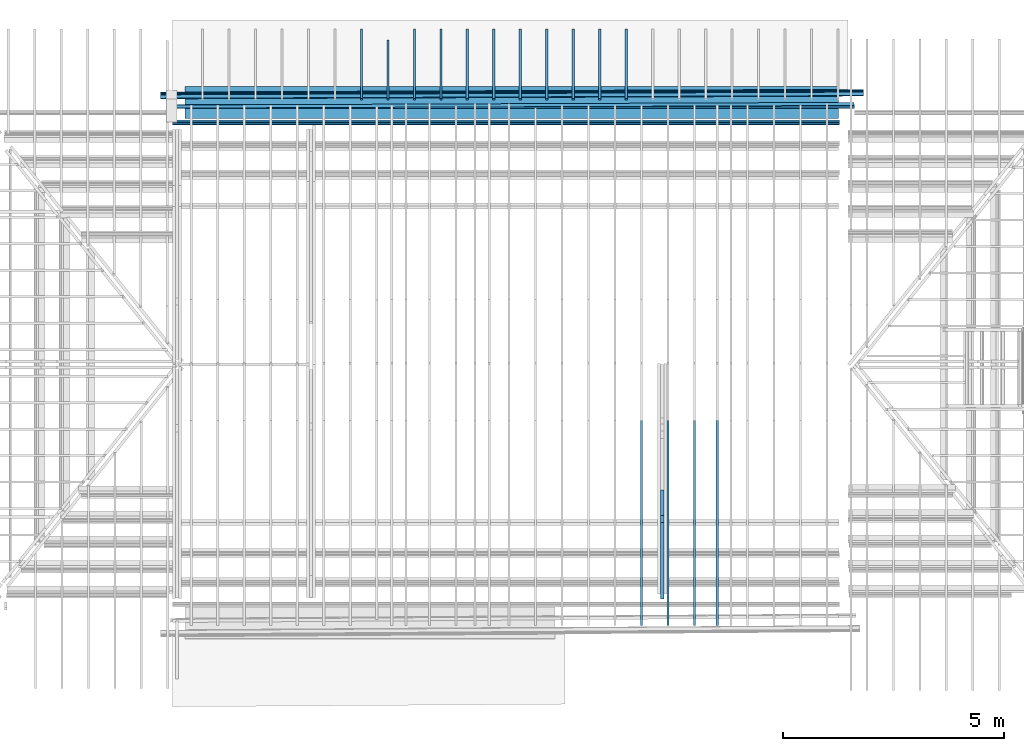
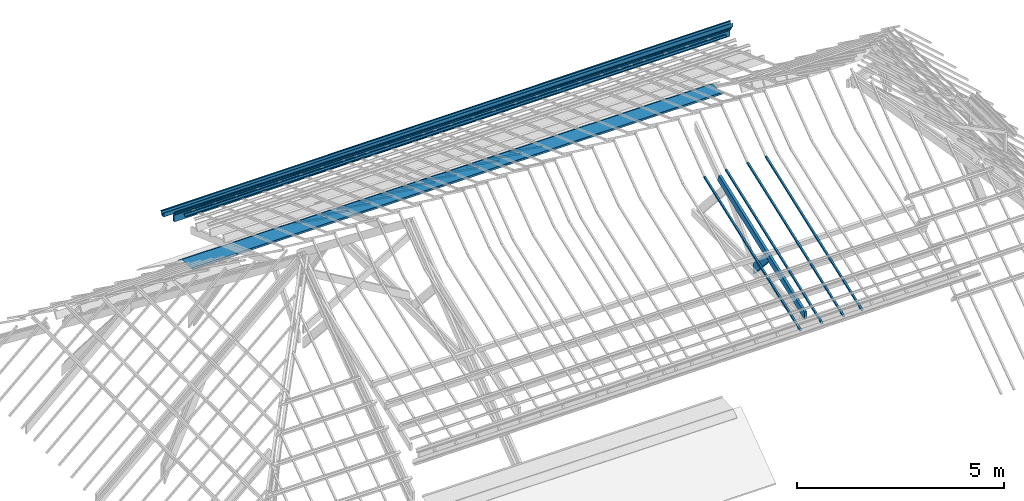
# One storey, part 9 of 18: 22 beams.
"""IFC2X3 building model written with IfcOpenShell, lengths in centimetres."""

from ifc_helpers import new_model, entity, si_unit, converted_unit, direction, frame, frame_2d, origin, origin_2d_with_axis, place, context, subcontext, project, spatial, polyline, circle_curve, parameter, trimmed, segment, composite_curve, rectangle, outline, extrude, clip, halfspace, bounded_halfspace, material, type_object, element, save


model = new_model("IFC2X3")

# Units and contexts
model_context = context("Model", 3, precision=0.001, world=frame((0.0, 0.0, 13090.0)), true_north=direction((6.123233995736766e-17, 1.0)))
body_context = subcontext(model_context, "Body", "Model", "MODEL_VIEW")
ifc_project = project(units=[si_unit("LENGTHUNIT", "METRE", prefix="CENTI"), si_unit("AREAUNIT", "SQUARE_METRE"), si_unit("VOLUMEUNIT", "CUBIC_METRE"), converted_unit("PLANEANGLEUNIT", "DEGREE", entity("IfcPlaneAngleMeasure", 0.017453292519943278), si_unit("PLANEANGLEUNIT", "RADIAN"), dimensions=[0, 0, 0, 0, 0, 0, 0])], contexts=[model_context])

# Site, building, storey
site_placement = place(None, origin())
site = spatial("IfcSite", under=ifc_project, at=site_placement, Name="Default", CompositionType="ELEMENT")
building_placement = place(site_placement, origin())
building = spatial("IfcBuilding", under=site, at=building_placement, Name="e 39 logements et 22 maisons relais", CompositionType="ELEMENT")
storey_placement = place(building_placement, frame((0.0, 0.0, 610.0)))
storey = spatial("IfcBuildingStorey", under=building, at=storey_placement, Name="R+2", CompositionType="ELEMENT", Elevation=609.9999999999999)

# Beams
ifc_material_1 = material(Name="Bois - Bois de construction de dimensions courantes")
beam_type_1 = type_object("IfcBeamType", Name="Poutre - Bois de construction de dimensions courantes:70 220", PredefinedType="BEAM")
beam_1_placement = place(storey_placement, frame((186.8682369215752, -561.3031404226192, 292.3300309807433), z_axis=(1.0, 0.0, 0.0), x_axis=(0.0, 0.665362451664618, -0.7465204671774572)))
element("IfcBeam", 1, at=beam_1_placement, inside=storey, type_object=beam_type_1, material=ifc_material_1, Name="Poutre - Bois de construction de dimensions courantes:70 220", ObjectType="Poutre - Bois de construction de dimensions courantes:70 220", context=body_context, shape_type="Clipping", body=[
    clip(clip(extrude(rectangle(XDim=21.99999999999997, YDim=7.000000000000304, at=frame_2d((1.354472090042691e-14, 0.0), x_axis=(0.0, 1.0))), frame((295.29875596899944, -11.0, 0.0), z_axis=(1.0, 0.0, 0.0), x_axis=(0.0, 0.0, -1.0)), (0.0, 0.0, 1.0), 109.54245639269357), bounded_halfspace(frame((394.72770309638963, -32.06071602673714, -409.30146352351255), z_axis=(0.746520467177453, -0.6653624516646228, 0.0), x_axis=(0.0, 0.0, 1.0)), False, frame((295.29875596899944, -11.0, 0.0), z_axis=(1.0, 0.0, 0.0), x_axis=(0.0, 0.0, -1.0)), polyline([(3.4999999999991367, -9.713604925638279), (-3.5000000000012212, -9.71360492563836), (-3.5000000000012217, -11.0), (3.4999999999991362, -11.0), (3.4999999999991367, -9.713604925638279)]))), bounded_halfspace(frame((404.8412123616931, -20.713604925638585, -409.30146352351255), z_axis=(0.6653624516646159, 0.7465204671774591, 0.0), x_axis=(0.0, 0.0, 1.0)), False, frame((295.29875596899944, -11.0, 0.0), z_axis=(1.0, 0.0, 0.0), x_axis=(0.0, 0.0, -1.0)), polyline([(-3.5000000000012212, -9.71360492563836), (3.4999999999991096, -9.713604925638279), (3.4999999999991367, 11.0), (-3.5000000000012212, 11.0), (-3.5000000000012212, -9.71360492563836)]))),
])
beam_type_2 = type_object("IfcBeamType", Name="Poutre - Bois de construction de dimensions courantes:70 200", PredefinedType="BEAM")
beam_2_placement = place(storey_placement, frame((186.86823692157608, -675.3686836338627, 55.291132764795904), z_axis=(0.0, -0.3472592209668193, 0.9377691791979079), x_axis=(0.0, 0.9377691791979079, 0.3472592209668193)))
element("IfcBeam", 2, at=beam_2_placement, inside=storey, type_object=beam_type_2, material=ifc_material_1, Name="Poutre - Bois de construction de dimensions courantes:70 200", ObjectType="Poutre - Bois de construction de dimensions courantes:70 200", context=body_context, shape_type="Clipping", body=[
    clip(extrude(rectangle(XDim=20.00000000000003, YDim=7.000000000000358, at=frame_2d((-7.016609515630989e-14, 0.0), x_axis=(1.0, 0.0))), frame((91.61969437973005, 0.0, -92.0), z_axis=(1.0, 0.0, 0.0), x_axis=(0.0, 0.0, -1.0)), (0.0, 0.0, 1.0), 448.16586327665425), halfspace(frame((112.11721562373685, 674.2152801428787, -46.64670047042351), z_axis=(-0.9377691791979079, 0.0, 0.3472592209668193), x_axis=(0.0, -1.0, 0.0)), False)),
])
beam_3_placement = place(storey_placement, frame((-580.7881755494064, 562.6902276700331, 18.41226177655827), z_axis=(0.0, 0.0, 1.0), x_axis=(-0.9999924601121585, -0.0038832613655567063, 0.0)))
element("IfcBeam", 3, at=beam_3_placement, inside=storey, type_object=beam_type_2, material=ifc_material_1, Name="Poutre - Bois de construction de dimensions courantes:70 200", ObjectType="Poutre - Bois de construction de dimensions courantes:70 200", context=body_context, shape_type="SweptSolid", body=[
    extrude(rectangle(XDim=20.0, YDim=7.000000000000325, at=frame_2d((0.0, -5.417888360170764e-14), x_axis=(1.0, 0.0))), frame((-1201.7620083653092, 0.0, -13.50000000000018), z_axis=(1.0, 0.0, 0.0), x_axis=(0.0, 0.0, -1.0)), (0.0, 0.0, 1.0), 1553.8612228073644),
])
ifc_material_2 = material(Name="neuf")
beam_type_3 = type_object("IfcBeamType", Name="gouttiere ALU G400:gouttiere ALU G400", PredefinedType="BEAM")
beam_4_placement = place(storey_placement, frame((-570.8951447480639, 580.4179206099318, 45.96233702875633), z_axis=(0.0, 0.0, 1.0), x_axis=(-0.9999924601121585, -0.0038832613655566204, 0.0)))
element("IfcBeam", 4, at=beam_4_placement, inside=storey, type_object=beam_type_3, material=ifc_material_2, Name="gouttiere ALU G400:gouttiere ALU G400", ObjectType="gouttiere ALU G400:gouttiere ALU G400", context=body_context, shape_type="SweptSolid", body=[
    extrude(outline(composite_curve([segment(polyline([(-4.596964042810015, -5.183638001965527), (-4.410064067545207, -5.183638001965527)]), True, "CONTINUOUS"), segment(trimmed(circle_curve(frame_2d((-4.410064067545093, -4.392159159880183), x_axis=(0.0, -1.0)), 0.7914788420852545), [parameter(0.0)], [parameter(89.99999999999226)], True, "PARAMETER"), True, "CONTINUOUS"), segment(polyline([(-3.6185852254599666, -4.3921591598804), (-3.6185852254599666, -3.63303606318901)]), True, "CONTINUOUS"), segment(trimmed(circle_curve(frame_2d((-2.8287143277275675, -3.6330360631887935), x_axis=(-1.0, 0.0)), 0.7898708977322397), [parameter(284.6197487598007)], [parameter(0.0)], True, "PARAMETER"), False, "CONTINUOUS"), segment(polyline([(-3.0280800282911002, -2.868739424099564), (3.0018920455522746, -1.9250957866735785)]), True, "CONTINUOUS"), segment(trimmed(circle_curve(frame_2d((2.6511667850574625, -0.5488704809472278), x_axis=(0.24695261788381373, -0.9690275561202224)), 1.4202127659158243), [parameter(0.0)], [parameter(75.70274320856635)], True, "PARAMETER"), True, "CONTINUOUS"), segment(trimmed(circle_curve(frame_2d((4.738394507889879, -0.5488704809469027), x_axis=(-1.0, 0.0)), 0.6670149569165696), [parameter(269.9999999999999)], [parameter(0.0)], True, "PARAMETER"), False, "CONTINUOUS"), segment(polyline([(4.738394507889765, 0.11814447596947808), (5.823944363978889, 0.11814447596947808)]), True, "CONTINUOUS"), segment(trimmed(circle_curve(frame_2d((5.604531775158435, 1.4672111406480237), x_axis=(0.16053097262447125, -0.9870308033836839)), 1.3667928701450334), [parameter(0.0)], [parameter(80.76228289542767)], True, "PARAMETER"), True, "CONTINUOUS"), segment(polyline([(6.971324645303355, 1.4672111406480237), (6.9713246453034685, 7.967211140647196)]), True, "CONTINUOUS"), segment(trimmed(circle_curve(frame_2d((4.482502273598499, 7.967211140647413), x_axis=(1.0, 0.0)), 2.48882237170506), [parameter(0.0)], [parameter(79.98963375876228)], True, "PARAMETER"), True, "CONTINUOUS"), segment(polyline([(4.915125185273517, 10.418144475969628), (-6.028675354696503, 10.41814447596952)]), True, "CONTINUOUS"), segment(polyline([(-6.028675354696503, 10.41814447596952), (-6.028675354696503, 10.218144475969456)]), True, "CONTINUOUS"), segment(polyline([(-6.028675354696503, 10.218144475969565), (4.897239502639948, 10.218144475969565)]), True, "CONTINUOUS"), segment(trimmed(circle_curve(frame_2d((4.482502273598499, 7.967211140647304), x_axis=(0.18120114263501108, 0.983446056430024)), 2.288822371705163), [parameter(280.43973077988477)], [parameter(0.0)], True, "PARAMETER"), False, "CONTINUOUS"), segment(polyline([(6.771324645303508, 7.967211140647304), (6.771324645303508, 1.4672111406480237)]), True, "CONTINUOUS"), segment(trimmed(circle_curve(frame_2d((5.604531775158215, 1.467211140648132), x_axis=(1.0, 0.0)), 1.1667928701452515), [parameter(279.99999999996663)], [parameter(0.0)], True, "PARAMETER"), False, "CONTINUOUS"), segment(polyline([(5.807143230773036, 0.3181444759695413), (4.738394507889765, 0.3181444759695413)]), True, "CONTINUOUS"), segment(trimmed(circle_curve(frame_2d((4.738394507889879, -0.5488704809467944), x_axis=(0.0, 1.0)), 0.8670149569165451), [parameter(0.0)], [parameter(90.00000000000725)], True, "PARAMETER"), True, "CONTINUOUS"), segment(trimmed(circle_curve(frame_2d((2.6511667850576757, -0.5488704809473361), x_axis=(1.0, 0.0)), 1.2202127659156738), [parameter(284.7237510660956)], [parameter(0.0)], True, "PARAMETER"), False, "CONTINUOUS"), segment(polyline([(2.961294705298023, -1.7290144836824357), (-3.068480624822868, -2.672439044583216)]), True, "CONTINUOUS"), segment(trimmed(circle_curve(frame_2d((-2.8289568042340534, -3.6331166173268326), x_axis=(-0.2419218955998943, 0.9702957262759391)), 0.9900873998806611), [parameter(0.0)], [parameter(75.99999999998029)], True, "PARAMETER"), True, "CONTINUOUS"), segment(polyline([(-3.8190442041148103, -3.6331166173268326), (-3.8190442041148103, -4.391273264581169)]), True, "CONTINUOUS"), segment(trimmed(circle_curve(frame_2d((-4.409626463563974, -4.391273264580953), x_axis=(1.0, 0.0)), 0.5905822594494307), [parameter(270.0000000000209)], [parameter(0.0)], True, "PARAMETER"), False, "CONTINUOUS"), segment(polyline([(-4.409626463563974, -4.981855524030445), (-4.596293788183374, -4.981855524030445)]), True, "CONTINUOUS"), segment(trimmed(circle_curve(frame_2d((-4.596293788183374, -4.451936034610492), x_axis=(0.0, -1.0)), 0.5299194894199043), [parameter(269.9999999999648)], [parameter(0.0)], True, "PARAMETER"), False, "CONTINUOUS"), segment(polyline([(-5.1262132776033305, -4.451936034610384), (-5.308633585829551, -2.7163227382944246)]), True, "CONTINUOUS"), segment(polyline([(-5.308633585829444, -2.7163227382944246), (-5.5097352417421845, -2.7163227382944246)]), True, "CONTINUOUS"), segment(polyline([(-5.5097352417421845, -2.7163227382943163), (-5.324785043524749, -4.455817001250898)]), True, "CONTINUOUS"), segment(trimmed(circle_curve(frame_2d((-4.596964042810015, -4.455817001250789), x_axis=(-1.0, 0.0)), 0.727821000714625), [parameter(0.0)], [parameter(90.00000000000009)], True, "PARAMETER"), True, "CONTINUOUS")], self_intersect=False)), frame((-1213.6300168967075, -10.218144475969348, -37.028675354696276), z_axis=(1.0, 0.0, 0.0), x_axis=(0.0, 0.0, -1.0)), (0.0, 0.0, 1.0), 1592.5999382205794),
])
beam_type_4 = type_object("IfcBeamType", Name="panne z:panne z", PredefinedType="BEAM")
beam_5_placement = place(storey_placement, frame((-570.930260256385, 527.6837356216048, 38.45000000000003), z_axis=(-0.0004969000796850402, 0.0, 0.9999998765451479), x_axis=(-0.9999998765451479, 0.0, -0.0004969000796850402)))
element("IfcBeam", 5, at=beam_5_placement, inside=storey, type_object=beam_type_4, material=ifc_material_2, Name="panne z:panne z", ObjectType="panne z:panne z", context=body_context, shape_type="SweptSolid", body=[
    extrude(outline(composite_curve([segment(polyline([(0.30000000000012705, -3.0), (4.6000000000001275, -3.0)]), True, "CONTINUOUS"), segment(trimmed(circle_curve(frame_2d((4.60000000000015, -2.599999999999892), x_axis=(0.0, -1.0)), 0.40000000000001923), [parameter(0.0)], [parameter(90.00000000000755)], True, "PARAMETER"), True, "CONTINUOUS"), segment(polyline([(5.0, -2.5999999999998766), (5.0, -1.0)]), True, "CONTINUOUS"), segment(polyline([(5.0, -1.0), (4.800000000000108, -1.0)]), True, "CONTINUOUS"), segment(polyline([(4.800000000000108, -1.0), (4.8000000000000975, -2.5999999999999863)]), True, "CONTINUOUS"), segment(trimmed(circle_curve(frame_2d((4.600000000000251, -2.599999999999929), x_axis=(1.0, 0.0)), 0.1999999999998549), [parameter(269.9999999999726)], [parameter(0.0)], True, "PARAMETER"), False, "CONTINUOUS"), segment(polyline([(4.600000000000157, -2.7999999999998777), (0.3000000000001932, -2.799999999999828)]), True, "CONTINUOUS"), segment(trimmed(circle_curve(frame_2d((0.30000000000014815, -2.5999999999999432), x_axis=(0.0, -1.0)), 0.19999999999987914), [parameter(269.9999999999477)], [parameter(0.0)], True, "PARAMETER"), False, "CONTINUOUS"), segment(polyline([(0.10000000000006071, -2.599999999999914), (0.10000000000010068, 2.600000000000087)]), True, "CONTINUOUS"), segment(trimmed(circle_curve(frame_2d((-0.2999999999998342, 2.6000000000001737), x_axis=(1.0, 0.0)), 0.3999999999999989), [parameter(0.0)], [parameter(89.99999999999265)], True, "PARAMETER"), True, "CONTINUOUS"), segment(polyline([(-0.2999999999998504, 3.0), (-4.59999999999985, 3.0)]), True, "CONTINUOUS"), segment(trimmed(circle_curve(frame_2d((-4.599999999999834, 2.600000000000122), x_axis=(0.0, 1.0)), 0.40000000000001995), [parameter(0.0)], [parameter(90.00000000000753)], True, "PARAMETER"), True, "CONTINUOUS"), segment(polyline([(-5.0, 2.600000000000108), (-5.0, 1.0)]), True, "CONTINUOUS"), segment(polyline([(-5.0, 1.0), (-4.79999999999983, 1.0)]), True, "CONTINUOUS"), segment(polyline([(-4.79999999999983, 1.0), (-4.799999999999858, 2.6000000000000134)]), True, "CONTINUOUS"), segment(trimmed(circle_curve(frame_2d((-4.600000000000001, 2.6000000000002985), x_axis=(-1.0, 0.0)), 0.19999999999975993), [parameter(269.9999999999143)], [parameter(0.0)], True, "PARAMETER"), False, "CONTINUOUS"), segment(polyline([(-4.599999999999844, 2.8000000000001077), (-0.2999999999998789, 2.8000000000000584)]), True, "CONTINUOUS"), segment(trimmed(circle_curve(frame_2d((-0.2999999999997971, 2.6000000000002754), x_axis=(0.0, 1.0)), 0.19999999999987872), [parameter(269.9999999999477)], [parameter(0.0)], True, "PARAMETER"), False, "CONTINUOUS"), segment(polyline([(-0.09999999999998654, 2.6000000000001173), (-0.09999999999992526, -2.599999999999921)]), True, "CONTINUOUS"), segment(trimmed(circle_curve(frame_2d((0.300000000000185, -2.5999999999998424), x_axis=(-1.0, 0.0)), 0.399999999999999), [parameter(0.0)], [parameter(89.99999999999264)], True, "PARAMETER"), True, "CONTINUOUS")], self_intersect=False)), frame((-1159.781285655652, 2.5591430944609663, -7.0311878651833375), z_axis=(1.0, 0.0, 0.0), x_axis=(0.0, -0.9396926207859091, -0.3420201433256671)), (0.0, 0.0, 1.0), 1511.88052744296),
])
beam_type_5 = type_object("IfcBeamType", Name="Poutre - Bois de construction de dimensions courantes:50 50", PredefinedType="BEAM")
beam_6_placement = place(storey_placement, frame((139.82376656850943, -682.454003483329, 59.79760523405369), z_axis=(0.0, -0.34610942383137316, 0.9381941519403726), x_axis=(0.0, 0.9381941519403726, 0.34610942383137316)))
element("IfcBeam", 6, at=beam_6_placement, inside=storey, type_object=beam_type_5, material=ifc_material_1, Name="Poutre - Bois de construction de dimensions courantes:50 50", ObjectType="Poutre - Bois de construction de dimensions courantes:50 50", context=body_context, shape_type="SweptSolid", body=[
    extrude(rectangle(XDim=4.999999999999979, YDim=5.000000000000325, at=frame_2d((1.887379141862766e-14, 0.0), x_axis=(1.0, 0.0))), frame((47.46098828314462, 0.0, -71.50000000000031), z_axis=(1.0, 0.0, 0.0), x_axis=(0.0, 0.0, -1.0)), (0.0, 0.0, 1.0), 496.5080480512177),
])
beam_7_placement = place(storey_placement, frame((311.35051896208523, -682.4540034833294, 59.79760523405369), z_axis=(0.0, -0.34610942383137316, 0.9381941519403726), x_axis=(0.0, 0.9381941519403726, 0.34610942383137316)))
element("IfcBeam", 7, at=beam_7_placement, inside=storey, type_object=beam_type_5, material=ifc_material_1, Name="Poutre - Bois de construction de dimensions courantes:50 50", ObjectType="Poutre - Bois de construction de dimensions courantes:50 50", context=body_context, shape_type="SweptSolid", body=[
    extrude(rectangle(XDim=4.999999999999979, YDim=5.000000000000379, at=origin_2d_with_axis()), frame((47.46098828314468, 0.0, -71.50000000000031), z_axis=(1.0, 0.0, 0.0), x_axis=(0.0, 0.0, -1.0)), (0.0, 0.0, 1.0), 496.5080480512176),
])
beam_8_placement = place(storey_placement, frame((259.85901227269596, -682.4540034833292, 59.79760523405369), z_axis=(0.0, -0.34610942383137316, 0.9381941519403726), x_axis=(0.0, 0.9381941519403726, 0.34610942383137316)))
element("IfcBeam", 8, at=beam_8_placement, inside=storey, type_object=beam_type_5, material=ifc_material_1, Name="Poutre - Bois de construction de dimensions courantes:50 50", ObjectType="Poutre - Bois de construction de dimensions courantes:50 50", context=body_context, shape_type="SweptSolid", body=[
    extrude(rectangle(XDim=4.999999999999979, YDim=5.000000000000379, at=frame_2d((0.0, -5.417888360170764e-14), x_axis=(1.0, 0.0))), frame((47.460988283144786, 0.0, -71.50000000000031), z_axis=(1.0, 0.0, 0.0), x_axis=(0.0, 0.0, -1.0)), (0.0, 0.0, 1.0), 496.5080480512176),
])
beam_9_placement = place(storey_placement, frame((199.82376656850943, -682.4540034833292, 59.79760523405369), z_axis=(0.0, -0.34610942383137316, 0.9381941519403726), x_axis=(0.0, 0.9381941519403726, 0.34610942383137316)))
element("IfcBeam", 9, at=beam_9_placement, inside=storey, type_object=beam_type_5, material=ifc_material_1, Name="Poutre - Bois de construction de dimensions courantes:50 50", ObjectType="Poutre - Bois de construction de dimensions courantes:50 50", context=body_context, shape_type="SweptSolid", body=[
    extrude(rectangle(XDim=4.999999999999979, YDim=5.000000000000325, at=frame_2d((1.887379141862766e-14, 0.0), x_axis=(1.0, 0.0))), frame((47.46098828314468, 0.0, -71.50000000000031), z_axis=(1.0, 0.0, 0.0), x_axis=(0.0, 0.0, -1.0)), (0.0, 0.0, 1.0), 496.5080480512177),
])
beam_10_placement = place(storey_placement, frame((-434.7819705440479, 595.7154312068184, -82.26436383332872), z_axis=(0.0, 0.5804591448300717, 0.814289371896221), x_axis=(0.0, -0.814289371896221, 0.5804591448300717)))
element("IfcBeam", 10, at=beam_10_placement, inside=storey, type_object=beam_type_5, material=ifc_material_1, Name="Poutre - Bois de construction de dimensions courantes:50 50", ObjectType="Poutre - Bois de construction de dimensions courantes:50 50", context=body_context, shape_type="SweptSolid", body=[
    extrude(rectangle(XDim=4.999999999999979, YDim=5.000000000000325, at=frame_2d((-2.19824158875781e-14, 0.0), x_axis=(1.0, 0.0))), frame((-191.95939717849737, 0.0, -71.50000000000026), z_axis=(1.0, 0.0, 0.0), x_axis=(0.0, 0.0, -1.0)), (0.0, 0.0, 1.0), 163.14570553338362),
])
beam_11_placement = place(storey_placement, frame((-374.7819705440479, 595.7154312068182, -82.26436383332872), z_axis=(0.0, 0.5804591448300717, 0.814289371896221), x_axis=(0.0, -0.814289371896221, 0.5804591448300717)))
element("IfcBeam", 11, at=beam_11_placement, inside=storey, type_object=beam_type_5, material=ifc_material_1, Name="Poutre - Bois de construction de dimensions courantes:50 50", ObjectType="Poutre - Bois de construction de dimensions courantes:50 50", context=body_context, shape_type="SweptSolid", body=[
    extrude(rectangle(XDim=5.000000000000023, YDim=5.000000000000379, at=frame_2d((0.0, 2.708944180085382e-14), x_axis=(1.0, 0.0))), frame((-222.1836430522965, 0.0, -71.50000000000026), z_axis=(1.0, 0.0, 0.0), x_axis=(0.0, 0.0, -1.0)), (0.0, 0.0, 1.0), 193.3699514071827),
])
beam_12_placement = place(storey_placement, frame((-314.7819705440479, 595.7154312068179, -82.26436383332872), z_axis=(0.0, 0.5804591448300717, 0.814289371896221), x_axis=(0.0, -0.814289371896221, 0.5804591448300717)))
element("IfcBeam", 12, at=beam_12_placement, inside=storey, type_object=beam_type_5, material=ifc_material_1, Name="Poutre - Bois de construction de dimensions courantes:50 50", ObjectType="Poutre - Bois de construction de dimensions courantes:50 50", context=body_context, shape_type="SweptSolid", body=[
    extrude(rectangle(XDim=5.000000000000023, YDim=5.000000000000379, at=frame_2d((0.0, 2.708944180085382e-14), x_axis=(1.0, 0.0))), frame((-222.18364305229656, 0.0, -71.50000000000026), z_axis=(1.0, 0.0, 0.0), x_axis=(0.0, 0.0, -1.0)), (0.0, 0.0, 1.0), 193.3699514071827),
])
beam_13_placement = place(storey_placement, frame((-254.7819705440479, 595.7154312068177, -82.26436383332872), z_axis=(0.0, 0.5804591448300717, 0.814289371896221), x_axis=(0.0, -0.814289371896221, 0.5804591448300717)))
element("IfcBeam", 13, at=beam_13_placement, inside=storey, type_object=beam_type_5, material=ifc_material_1, Name="Poutre - Bois de construction de dimensions courantes:50 50", ObjectType="Poutre - Bois de construction de dimensions courantes:50 50", context=body_context, shape_type="SweptSolid", body=[
    extrude(rectangle(XDim=5.000000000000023, YDim=5.000000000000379, at=frame_2d((0.0, 2.708944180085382e-14), x_axis=(1.0, 0.0))), frame((-222.18364305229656, 0.0, -71.5000000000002), z_axis=(1.0, 0.0, 0.0), x_axis=(0.0, 0.0, -1.0)), (0.0, 0.0, 1.0), 193.3699514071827),
])
beam_14_placement = place(storey_placement, frame((-194.7819705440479, 595.7154312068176, -82.26436383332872), z_axis=(0.0, 0.5804591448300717, 0.814289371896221), x_axis=(0.0, -0.814289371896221, 0.5804591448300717)))
element("IfcBeam", 14, at=beam_14_placement, inside=storey, type_object=beam_type_5, material=ifc_material_1, Name="Poutre - Bois de construction de dimensions courantes:50 50", ObjectType="Poutre - Bois de construction de dimensions courantes:50 50", context=body_context, shape_type="SweptSolid", body=[
    extrude(rectangle(XDim=5.000000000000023, YDim=5.000000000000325, at=frame_2d((0.0, -1.354472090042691e-14), x_axis=(1.0, 0.0))), frame((-222.18364305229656, 0.0, -71.50000000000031), z_axis=(1.0, 0.0, 0.0), x_axis=(0.0, 0.0, -1.0)), (0.0, 0.0, 1.0), 193.3699514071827),
])
beam_15_placement = place(storey_placement, frame((-134.78197054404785, 595.7154312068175, -82.26436383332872), z_axis=(0.0, 0.5804591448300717, 0.814289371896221), x_axis=(0.0, -0.814289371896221, 0.5804591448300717)))
element("IfcBeam", 15, at=beam_15_placement, inside=storey, type_object=beam_type_5, material=ifc_material_1, Name="Poutre - Bois de construction de dimensions courantes:50 50", ObjectType="Poutre - Bois de construction de dimensions courantes:50 50", context=body_context, shape_type="SweptSolid", body=[
    extrude(rectangle(XDim=4.999999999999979, YDim=5.000000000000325, at=frame_2d((-2.19824158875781e-14, -1.354472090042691e-14), x_axis=(1.0, 0.0))), frame((-222.18364305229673, 0.0, -71.50000000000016), z_axis=(1.0, 0.0, 0.0), x_axis=(0.0, 0.0, -1.0)), (0.0, 0.0, 1.0), 193.3699514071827),
])
beam_16_placement = place(storey_placement, frame((-74.78197054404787, 595.7154312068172, -82.26436383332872), z_axis=(0.0, 0.5804591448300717, 0.814289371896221), x_axis=(0.0, -0.814289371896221, 0.5804591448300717)))
element("IfcBeam", 16, at=beam_16_placement, inside=storey, type_object=beam_type_5, material=ifc_material_1, Name="Poutre - Bois de construction de dimensions courantes:50 50", ObjectType="Poutre - Bois de construction de dimensions courantes:50 50", context=body_context, shape_type="SweptSolid", body=[
    extrude(rectangle(XDim=4.999999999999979, YDim=5.000000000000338, at=frame_2d((-2.19824158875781e-14, 6.661338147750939e-15), x_axis=(1.0, 0.0))), frame((-222.18364305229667, 0.0, -71.50000000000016), z_axis=(1.0, 0.0, 0.0), x_axis=(0.0, 0.0, -1.0)), (0.0, 0.0, 1.0), 193.3699514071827),
])
beam_17_placement = place(storey_placement, frame((-14.781970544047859, 595.715431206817, -82.26436383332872), z_axis=(0.0, 0.5804591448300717, 0.814289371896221), x_axis=(0.0, -0.814289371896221, 0.5804591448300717)))
element("IfcBeam", 17, at=beam_17_placement, inside=storey, type_object=beam_type_5, material=ifc_material_1, Name="Poutre - Bois de construction de dimensions courantes:50 50", ObjectType="Poutre - Bois de construction de dimensions courantes:50 50", context=body_context, shape_type="SweptSolid", body=[
    extrude(rectangle(XDim=4.999999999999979, YDim=5.000000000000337, at=frame_2d((-2.19824158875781e-14, 8.881784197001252e-16), x_axis=(1.0, 0.0))), frame((-222.18364305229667, 0.0, -71.5000000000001), z_axis=(1.0, 0.0, 0.0), x_axis=(0.0, 0.0, -1.0)), (0.0, 0.0, 1.0), 193.3699514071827),
])
beam_18_placement = place(storey_placement, frame((45.21802945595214, 595.7154312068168, -82.26436383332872), z_axis=(0.0, 0.5804591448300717, 0.814289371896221), x_axis=(0.0, -0.814289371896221, 0.5804591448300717)))
element("IfcBeam", 18, at=beam_18_placement, inside=storey, type_object=beam_type_5, material=ifc_material_1, Name="Poutre - Bois de construction de dimensions courantes:50 50", ObjectType="Poutre - Bois de construction de dimensions courantes:50 50", context=body_context, shape_type="SweptSolid", body=[
    extrude(rectangle(XDim=4.999999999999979, YDim=5.0000000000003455, at=frame_2d((-2.19824158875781e-14, 3.3306690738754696e-15), x_axis=(1.0, 0.0))), frame((-222.18364305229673, 0.0, -71.5000000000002), z_axis=(1.0, 0.0, 0.0), x_axis=(0.0, 0.0, -1.0)), (0.0, 0.0, 1.0), 193.3699514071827),
])
beam_19_placement = place(storey_placement, frame((105.21802945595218, 595.7154312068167, -82.26436383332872), z_axis=(0.0, 0.5804591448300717, 0.814289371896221), x_axis=(0.0, -0.814289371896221, 0.5804591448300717)))
element("IfcBeam", 19, at=beam_19_placement, inside=storey, type_object=beam_type_5, material=ifc_material_1, Name="Poutre - Bois de construction de dimensions courantes:50 50", ObjectType="Poutre - Bois de construction de dimensions courantes:50 50", context=body_context, shape_type="SweptSolid", body=[
    extrude(rectangle(XDim=5.000000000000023, YDim=5.000000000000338, at=frame_2d((0.0, 6.661338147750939e-15), x_axis=(1.0, 0.0))), frame((-222.18364305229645, 0.0, -71.50000000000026), z_axis=(1.0, 0.0, 0.0), x_axis=(0.0, 0.0, -1.0)), (0.0, 0.0, 1.0), 193.3699514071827),
])
beam_20_placement = place(storey_placement, frame((-494.78197054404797, 595.7154312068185, -82.26436383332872), z_axis=(0.0, 0.5804591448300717, 0.814289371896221), x_axis=(0.0, -0.814289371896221, 0.5804591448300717)))
element("IfcBeam", 20, at=beam_20_placement, inside=storey, type_object=beam_type_5, material=ifc_material_1, Name="Poutre - Bois de construction de dimensions courantes:50 50", ObjectType="Poutre - Bois de construction de dimensions courantes:50 50", context=body_context, shape_type="SweptSolid", body=[
    extrude(rectangle(XDim=4.999999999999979, YDim=5.000000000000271, at=frame_2d((-2.19824158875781e-14, -1.0835776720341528e-13), x_axis=(1.0, 0.0))), frame((-222.1836430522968, 0.0, -71.50000000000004), z_axis=(1.0, 0.0, 0.0), x_axis=(0.0, 0.0, -1.0)), (0.0, 0.0, 1.0), 193.3699514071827),
])
beam_type_6 = type_object("IfcBeamType", Name="panne z pente sup 20 deg:panne z pente sup 20 deg", PredefinedType="BEAM")
beam_21_placement = place(storey_placement, frame((-570.9302602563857, 560.658523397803, 26.40574719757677), z_axis=(-0.00033650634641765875, 0.0, 0.9999999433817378), x_axis=(-0.9999999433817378, 0.0, -0.00033650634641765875)))
element("IfcBeam", 21, at=beam_21_placement, inside=storey, type_object=beam_type_6, material=ifc_material_2, Name="panne z pente sup 20 deg:panne z pente sup 20 deg", ObjectType="panne z pente sup 20 deg:panne z pente sup 20 deg", context=body_context, shape_type="SweptSolid", body=[
    extrude(outline(composite_curve([segment(polyline([(2.351039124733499, -4.688363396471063), (3.9510391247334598, -4.688363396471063)]), True, "CONTINUOUS"), segment(trimmed(circle_curve(frame_2d((3.9510391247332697, -4.288363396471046), x_axis=(0.0, -1.0)), 0.4000000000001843), [parameter(0.0)], [parameter(89.99999999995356)], True, "PARAMETER"), True, "CONTINUOUS"), segment(polyline([(4.3510391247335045, -4.28836339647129), (4.351039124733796, 0.011636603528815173)]), True, "CONTINUOUS"), segment(trimmed(circle_curve(frame_2d((3.9510391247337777, 0.011636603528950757), x_axis=(1.0, 0.0)), 0.4000000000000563), [parameter(0.0)], [parameter(90.00000000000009)], True, "PARAMETER"), True, "CONTINUOUS"), segment(polyline([(3.951039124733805, 0.41163660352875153), (-3.2097694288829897, 0.4116366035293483)]), True, "CONTINUOUS"), segment(trimmed(circle_curve(frame_2d((-3.1704734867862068, 0.6236813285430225), x_axis=(-0.18221658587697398, -0.983258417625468)), 0.21565513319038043), [parameter(324.66091170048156)], [parameter(0.0)], True, "PARAMETER"), False, "CONTINUOUS"), segment(polyline([(-3.325178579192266, 0.47343662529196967), (-4.61156482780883, 4.007753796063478)]), True, "CONTINUOUS"), segment(trimmed(circle_curve(frame_2d((-4.507284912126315, 4.0064842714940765), x_axis=(-0.999925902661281, 0.012173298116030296)), 0.10428764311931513), [parameter(270.69749583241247)], [parameter(0.0)], True, "PARAMETER"), False, "CONTINUOUS"), segment(polyline([(-4.507284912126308, 4.110771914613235), (-2.9072849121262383, 4.110771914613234)]), True, "CONTINUOUS"), segment(polyline([(-2.9072849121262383, 4.110771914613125), (-2.9072849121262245, 4.310771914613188)]), True, "CONTINUOUS"), segment(polyline([(-2.9072849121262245, 4.310771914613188), (-4.507284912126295, 4.310771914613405)]), True, "CONTINUOUS"), segment(trimmed(circle_curve(frame_2d((-4.507284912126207, 4.0064842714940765), x_axis=(0.0, 1.0)), 0.30428764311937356), [parameter(0.0)], [parameter(97.92653463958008)], True, "PARAMETER"), True, "CONTINUOUS"), segment(polyline([(-4.808665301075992, 3.9645220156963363), (-3.500934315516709, 0.37156066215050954)]), True, "CONTINUOUS"), segment(trimmed(circle_curve(frame_2d((-3.1704734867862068, 0.6236813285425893), x_axis=(-0.795036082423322, -0.6065621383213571)), 0.4156551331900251), [parameter(0.0)], [parameter(45.10140898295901)], True, "PARAMETER"), True, "CONTINUOUS"), segment(polyline([(-3.2251391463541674, 0.21163660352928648), (3.951039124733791, 0.211636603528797)]), True, "CONTINUOUS"), segment(trimmed(circle_curve(frame_2d((3.9510391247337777, 0.011636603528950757), x_axis=(0.0, 1.0)), 0.19999999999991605), [parameter(269.9999999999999)], [parameter(0.0)], True, "PARAMETER"), False, "CONTINUOUS"), segment(polyline([(4.151039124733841, 0.011636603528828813), (4.15103912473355, -4.28836339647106)]), True, "CONTINUOUS"), segment(trimmed(circle_curve(frame_2d((3.9510391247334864, -4.288363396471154), x_axis=(1.0, 0.0)), 0.19999999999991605), [parameter(269.9999999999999)], [parameter(0.0)], True, "PARAMETER"), False, "CONTINUOUS"), segment(polyline([(3.951039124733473, -4.488363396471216), (2.3510391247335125, -4.488363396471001)]), True, "CONTINUOUS"), segment(polyline([(2.3510391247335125, -4.488363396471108), (2.351039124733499, -4.688363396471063)]), True, "CONTINUOUS")], self_intersect=False)), frame((-1193.9562451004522, -0.3116366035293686, -7.331394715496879), z_axis=(1.0, 0.0, 0.0), x_axis=(0.0, 0.0, -1.0)), (0.0, 0.0, 1.0), 1552.8909692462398),
])
beam_type_7 = type_object("IfcBeamType", Name="tpg appui de baie2:tpg appui de baie2", PredefinedType="BEAM")
beam_22_placement = place(storey_placement, frame((1198.2967242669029, 531.4589484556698, -138.5396339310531), z_axis=(0.0, 0.0, 1.0), x_axis=(-1.0, 0.0, 0.0)))
element("IfcBeam", 22, at=beam_22_placement, inside=storey, type_object=beam_type_7, material=ifc_material_2, Name="tpg appui de baie2:tpg appui de baie2", ObjectType="tpg appui de baie2:tpg appui de baie2", context=body_context, shape_type="SweptSolid", body=[
    extrude(outline(polyline([(6.232525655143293, -39.88947850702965), (11.988682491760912, -39.88947850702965), (11.988682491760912, -39.6894785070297), (6.422434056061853, -39.6894785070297), (3.6563998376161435, 13.710260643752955), (-9.6452412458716, 32.5875708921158), (-12.131068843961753, 33.49233814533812), (-12.199472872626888, 33.30439962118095), (-9.772595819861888, 32.42108861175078), (3.459654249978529, 13.642256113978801), (6.232525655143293, -39.88947850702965)])), frame((612.5678980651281, -42.237201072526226, -11.617110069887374), z_axis=(1.0, 0.0, 0.0), x_axis=(0.0, 0.0, 1.0)), (0.0, 0.0, 1.0), 1480.7583009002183),
])

save(model, "model.ifc")
